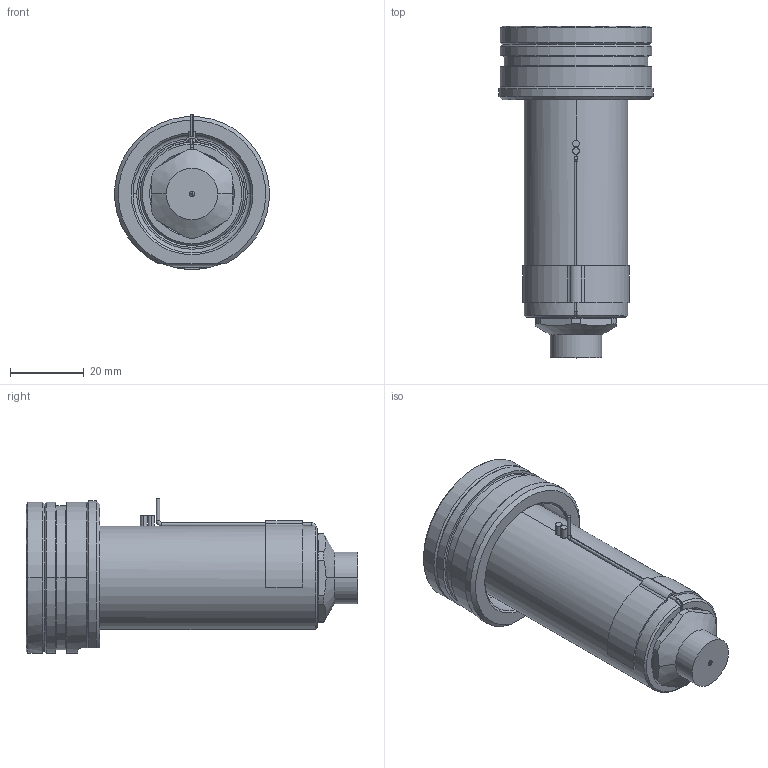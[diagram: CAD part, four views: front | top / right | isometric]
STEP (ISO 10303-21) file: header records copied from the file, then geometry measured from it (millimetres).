
FILE_DESCRIPTION((''),'2;1');
FILE_NAME('EO10_PG-FB_STD_070_SW','2024-02-19T11:32:36',('sundharh'),(''),'CREO PARAMETRIC BY PTC INC, 2023154','CREO PARAMETRIC BY PTC INC, 2023154','');
FILE_SCHEMA(('CONFIG_CONTROL_DESIGN'));
Length unit declared in the file: millimetre
Products named in the file (1): EO10_PG-FB_STD_070_SW
Bounding box: 41.85 x 90 x 42.02 mm (x, y, z)
Volume: 56928.4 mm3; surface area: 17815 mm2
Topology: 1 solids, 1 shells, 201 faces, 544 edges, 338 vertices
Faces by surface type: cylinder 80, plane 59, cone 39, torus 17, bspline 3, sphere 3
Entity records: 7341 total; most frequent: CARTESIAN_POINT 2173, DIRECTION 1128, ORIENTED_EDGE 1080, EDGE_CURVE 540, AXIS2_PLACEMENT_3D 470, VERTEX_POINT 338, CIRCLE 272, EDGE_LOOP 218
